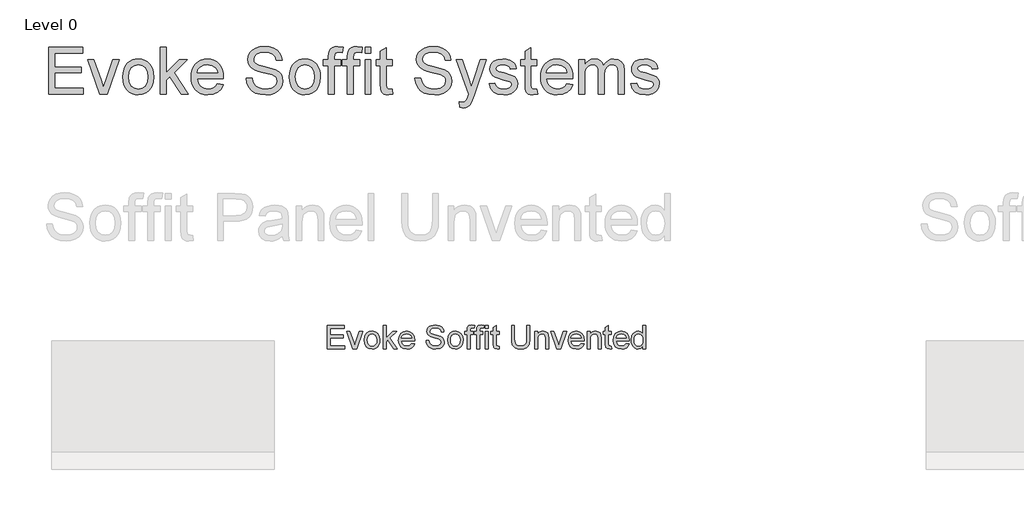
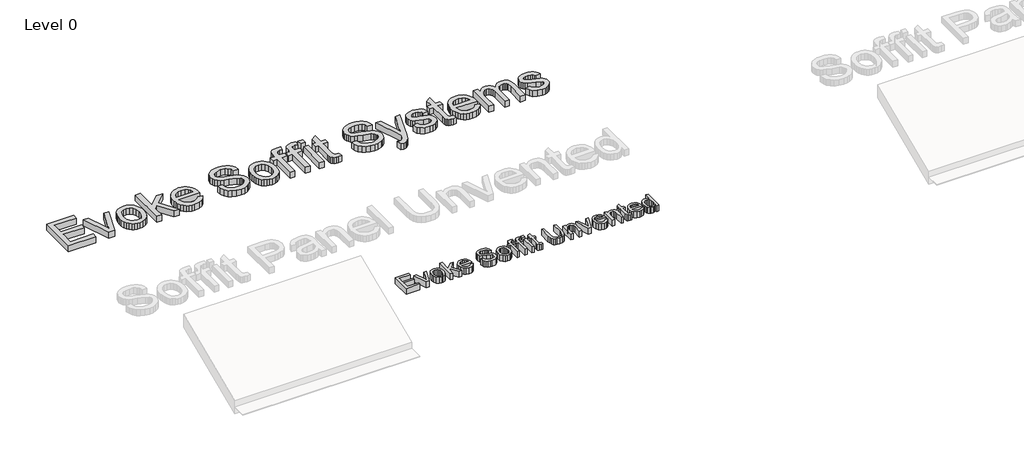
# One storey, part 2 of 13: 2 proxies.
"""IFC4 building model written with IfcOpenShell, lengths in millimetres."""

from ifc_helpers import new_model, si_unit, origin, origin_with_axes, place, context, project, spatial, polyline, outline, extrude, element, save

model = new_model("IFC4")

# Units and contexts
model_context = context("Model", 3, world=origin())
ifc_project = project(units=[si_unit("LENGTHUNIT", "METRE", prefix="MILLI")], contexts=[model_context])

# Site, building, storey
site = spatial("IfcSite", under=ifc_project)
building = spatial("IfcBuilding", under=site)
storey = spatial("IfcBuildingStorey", under=building, Name="Level 0", Elevation=0.0)

# Proxies
placement = place(None, origin())
element("IfcBuildingElementProxy", 1, Name="150mm Arial", ObjectType="150mm Arial", at=placement, inside=storey, context=model_context, shape_type="SweptSolid", body=[
    extrude(outline(polyline([(-1431.2798957, -5059.3317689), (-1431.2798957, -4911.6394612), (-1325.1260496, -4911.6394612), (-1325.1260496, -4930.1009997), (-1412.8183573, -4930.1009997), (-1412.8183573, -4973.9471535), (-1329.7414342, -4973.9471535), (-1329.7414342, -4992.408692), (-1412.8183573, -4992.408692), (-1412.8183573, -5040.8702305), (-1322.8183573, -5040.8702305), (-1322.8183573, -5059.3317689), (-1431.2798957, -5059.3317689)])), origin_with_axes(), (0.0, 0.0, 1.0), 50.0),
    extrude(outline(polyline([(-1270.823165, -5059.3317689), (-1308.9722034, -4950.8702305), (-1289.4289342, -4950.8702305), (-1266.3159534, -5015.846192), (-1259.3568188, -5037.6971535), (-1252.541915, -5017.0721535), (-1229.2847034, -4950.8702305), (-1209.7414342, -4950.8702305), (-1247.4217226, -5059.3317689), (-1270.823165, -5059.3317689)])), origin_with_axes(), (0.0, 0.0, 1.0), 50.0),
    extrude(outline(polyline([(-1198.2029726, -5005.1009997), (-1194.2095832, -4978.9501584), (-1182.229415, -4960.5697497), (-1167.4277323, -4951.564341), (-1149.7053765, -4948.5625382), (-1130.3108452, -4952.2178867), (-1114.8195592, -4963.1839324), (-1104.6648116, -4980.5952906), (-1101.2798957, -5003.5865766), (-1102.77629, -5022.237418), (-1107.2654726, -5036.4351343), (-1114.6167347, -5047.0676463), (-1124.6993669, -5055.0228747), (-1136.6750279, -5059.9853146), (-1149.7053765, -5061.6394612), (-1169.3342827, -5057.9976343), (-1184.80754, -5047.0721535), (-1194.8541145, -5029.2957112), (-1198.2029726, -5005.1009997)]), holes=[polyline([(-1179.7414342, -5005.064942), (-1177.6050159, -5021.7731752), (-1171.1957611, -5033.6767209), (-1161.5503284, -5040.8026223), (-1149.7053765, -5043.1779228), (-1137.9145111, -5040.7891007), (-1128.2871073, -5033.6226343), (-1121.8778525, -5021.5613362), (-1119.7414342, -5004.4880189), (-1121.8913741, -4988.2665646), (-1128.3411938, -4976.5252785), (-1137.9821193, -4969.3993771), (-1149.7053765, -4967.0240766), (-1161.5503284, -4969.3903627), (-1171.1957611, -4976.4892209), (-1177.6050159, -4988.3657233), (-1179.7414342, -5005.064942)])]), origin_with_axes(), (0.0, 0.0, 1.0), 50.0),
    extrude(outline(polyline([(-1080.510665, -5059.3317689), (-1080.510665, -4911.6394612), (-1062.0491265, -4911.6394612), (-1062.0491265, -4991.002442), (-1020.6548957, -4950.8702305), (-995.1260496, -4950.8702305), (-1037.025088, -4991.5072497), (-992.8183573, -5059.3317689), (-1014.3808573, -5059.3317689), (-1050.2582611, -5004.3437882), (-1062.0491265, -5015.7740766), (-1062.0491265, -5059.3317689), (-1080.510665, -5059.3317689)])), origin_with_axes(), (0.0, 0.0, 1.0), 50.0),
    extrude(outline(polyline([(-900.7270111, -5027.0240766), (-882.6260496, -5029.3317689), (-889.1479847, -5042.970591), (-899.5551361, -5053.1659035), (-913.6131289, -5059.5210718), (-931.087588, -5061.6394612), (-952.7492467, -5057.9841127), (-969.416915, -5047.018067), (-980.0449198, -5029.4534636), (-983.587588, -5006.002442), (-980.0088621, -4981.7626584), (-969.2726842, -4963.6346535), (-952.8303765, -4952.330567), (-932.1332611, -4948.5625382), (-912.080677, -4952.3215526), (-896.05754, -4963.5985959), (-885.5512299, -4981.690543), (-882.0491265, -5005.8942689), (-882.1572996, -5010.8702305), (-965.1260496, -5010.8702305), (-961.9304366, -5024.689341), (-954.5070592, -5034.8485959), (-943.7934174, -5041.095591), (-930.7270111, -5043.1779228), (-912.6260496, -5039.3197497), (-900.7270111, -5027.0240766)]), holes=[polyline([(-965.1260496, -4992.408692), (-900.510665, -4992.408692), (-903.0076601, -4982.6550862), (-907.9024919, -4975.6779228), (-918.665713, -4969.1875382), (-932.2053765, -4967.0240766), (-944.6497876, -4968.7503386), (-954.9397515, -4973.9291247), (-962.0926962, -4982.0015406), (-965.1260496, -4992.408692)])]), origin_with_axes(), (0.0, 0.0, 1.0), 50.0),
    extrude(outline(polyline([(-810.510665, -5008.5625382), (-792.0491265, -5008.5625382), (-786.0996073, -5027.0421055), (-771.5683573, -5038.7247978), (-749.4289342, -5043.1779228), (-730.1380688, -5039.8065285), (-717.6801361, -5030.5397016), (-713.587588, -5018.1538843), (-716.6524919, -5006.6334516), (-729.2005688, -4998.2500382), (-756.0815784, -4991.2007593), (-785.0178765, -4982.096192), (-800.7210015, -4968.3582112), (-805.8952803, -4950.0048459), (-804.2952202, -4939.1920454), (-799.49504, -4929.1094132), (-791.6209414, -4920.5637401), (-780.7991265, -4914.361817), (-753.431338, -4909.3317689), (-724.2246073, -4914.596192), (-713.0286938, -4921.095591), (-704.7534534, -4930.064942), (-699.5160736, -4940.9453507), (-697.4337419, -4953.1779228), (-715.8952803, -4953.1779228), (-719.2847034, -4942.1622978), (-726.3520111, -4934.2115766), (-737.3946794, -4929.3978747), (-752.7101842, -4927.7933074), (-768.3862659, -4929.3798459), (-779.1404726, -4934.1394612), (-785.3604246, -4941.143668), (-787.4337419, -4949.4639805), (-785.9643909, -4956.5583314), (-781.556338, -4962.2644612), (-751.4121073, -4972.5769612), (-718.743838, -4981.8437882), (-708.2194991, -4988.5415045), (-700.8772515, -4996.8077305), (-695.1260496, -5017.6851343), (-696.7801962, -5029.0658434), (-701.7426361, -5039.7704709), (-709.8105448, -5048.9832112), (-720.7810976, -5055.8882593), (-748.7077803, -5061.6394612), (-766.7952202, -5060.0889805), (-781.68254, -5055.4375382), (-793.5410135, -5047.6671055), (-802.541915, -5036.7596535), (-808.3201601, -5023.4723939), (-810.510665, -5008.5625382)])), origin_with_axes(), (0.0, 0.0, 1.0), 50.0),
    extrude(outline(polyline([(-674.3568188, -5005.1009997), (-670.3634294, -4978.9501584), (-658.3832611, -4960.5697497), (-643.5815784, -4951.564341), (-625.8592226, -4948.5625382), (-606.4646914, -4952.2178867), (-590.9734053, -4963.1839324), (-580.8186577, -4980.5952906), (-577.4337419, -5003.5865766), (-578.9301361, -5022.237418), (-583.4193188, -5036.4351343), (-590.7705808, -5047.0676463), (-600.853213, -5055.0228747), (-612.8288741, -5059.9853146), (-625.8592226, -5061.6394612), (-645.4881289, -5057.9976343), (-660.9613861, -5047.0721535), (-671.0079606, -5029.2957112), (-674.3568188, -5005.1009997)]), holes=[polyline([(-655.8952803, -5005.064942), (-653.7588621, -5021.7731752), (-647.3496073, -5033.6767209), (-637.7041746, -5040.8026223), (-625.8592226, -5043.1779228), (-614.0683573, -5040.7891007), (-604.4409534, -5033.6226343), (-598.0316986, -5021.5613362), (-595.8952803, -5004.4880189), (-598.0452202, -4988.2665646), (-604.49504, -4976.5252785), (-614.1359654, -4969.3993771), (-625.8592226, -4967.0240766), (-637.7041746, -4969.3903627), (-647.3496073, -4976.4892209), (-653.7588621, -4988.3657233), (-655.8952803, -5005.064942)])]), origin_with_axes(), (0.0, 0.0, 1.0), 50.0),
    extrude(outline(polyline([(-552.0491265, -5059.3317689), (-552.0491265, -4969.3317689), (-568.2029726, -4969.3317689), (-568.2029726, -4950.8702305), (-552.0491265, -4950.8702305), (-552.0491265, -4939.9447497), (-550.1020111, -4924.5481151), (-540.6548957, -4913.5505189), (-522.0491265, -4909.3317689), (-505.2101842, -4911.3509997), (-507.9145111, -4928.658692), (-518.5515303, -4927.7933074), (-530.1801361, -4930.8582112), (-533.587588, -4942.2884997), (-533.587588, -4950.8702305), (-512.8183573, -4950.8702305), (-512.8183573, -4969.3317689), (-533.587588, -4969.3317689), (-533.587588, -5059.3317689), (-552.0491265, -5059.3317689)])), origin_with_axes(), (0.0, 0.0, 1.0), 50.0),
    extrude(outline(polyline([(-492.0491265, -5059.3317689), (-492.0491265, -4969.3317689), (-508.2029726, -4969.3317689), (-508.2029726, -4950.8702305), (-492.0491265, -4950.8702305), (-492.0491265, -4939.9447497), (-490.1020111, -4924.5481151), (-480.6548957, -4913.5505189), (-462.0491265, -4909.3317689), (-445.2101842, -4911.3509997), (-447.9145111, -4928.658692), (-458.5515303, -4927.7933074), (-470.1801361, -4930.8582112), (-473.587588, -4942.2884997), (-473.587588, -4950.8702305), (-452.8183573, -4950.8702305), (-452.8183573, -4969.3317689), (-473.587588, -4969.3317689), (-473.587588, -5059.3317689), (-492.0491265, -5059.3317689)])), origin_with_axes(), (0.0, 0.0, 1.0), 50.0),
    extrude(outline(polyline([(-436.6645111, -4930.1009997), (-436.6645111, -4911.6394612), (-418.2029726, -4911.6394612), (-418.2029726, -4930.1009997), (-436.6645111, -4930.1009997)])), origin_with_axes(), (0.0, 0.0, 1.0), 50.0),
    extrude(outline(polyline([(-436.6645111, -5059.3317689), (-436.6645111, -4950.8702305), (-418.2029726, -4950.8702305), (-418.2029726, -5059.3317689), (-436.6645111, -5059.3317689)])), origin_with_axes(), (0.0, 0.0, 1.0), 50.0),
    extrude(outline(polyline([(-351.2798957, -5043.9351343), (-348.9722034, -5059.8726343), (-362.7822996, -5061.6394612), (-378.2510496, -5058.5745574), (-385.9673957, -5050.533692), (-388.2029726, -5029.5841728), (-388.2029726, -4969.3317689), (-402.0491265, -4969.3317689), (-402.0491265, -4950.8702305), (-388.2029726, -4950.8702305), (-388.2029726, -4924.5120574), (-369.7414342, -4913.658692), (-369.7414342, -4950.8702305), (-351.2798957, -4950.8702305), (-351.2798957, -4969.3317689), (-369.7414342, -4969.3317689), (-369.7414342, -5029.0433074), (-368.7678765, -5038.5625382), (-365.6128284, -5041.9339324), (-359.3207611, -5043.1779228), (-351.2798957, -5043.9351343)])), origin_with_axes(), (0.0, 0.0, 1.0), 50.0),
    extrude(outline(polyline([(-175.8952803, -4911.6394612), (-157.4337419, -4911.6394612), (-157.4337419, -4996.8437882), (-162.4457611, -5032.1622978), (-169.4679967, -5044.0162641), (-180.510665, -5053.4363362), (-195.6008092, -5059.58868), (-214.7654726, -5061.6394612), (-233.5109654, -5059.8546055), (-248.4974438, -5054.5000382), (-259.729415, -5045.760555), (-267.2113861, -5033.8209516), (-271.4166145, -5017.806829), (-272.8183573, -4996.8437882), (-272.8183573, -4911.6394612), (-254.3568188, -4911.6394612), (-254.3568188, -4996.1947497), (-250.7149919, -5024.3377785), (-245.7660736, -5032.338079), (-238.2029726, -5038.2740766), (-216.4962419, -5043.1779228), (-197.7191986, -5040.753043), (-185.2342226, -5033.4784035), (-178.2300159, -5019.3077305), (-175.8952803, -4996.1947497), (-175.8952803, -4911.6394612)])), origin_with_axes(), (0.0, 0.0, 1.0), 50.0),
    extrude(outline(polyline([(-127.4337419, -5059.3317689), (-127.4337419, -4950.8702305), (-108.9722034, -4950.8702305), (-108.9722034, -4966.0144612), (-94.8556169, -4952.9255189), (-75.5827803, -4948.5625382), (-58.1488861, -4952.0781632), (-46.2498476, -4961.3089324), (-40.7149919, -4974.8846535), (-39.7414342, -4992.7332112), (-39.7414342, -5059.3317689), (-58.2029726, -5059.3317689), (-58.2029726, -4995.221192), (-60.3303765, -4978.8870574), (-67.8484053, -4970.2512401), (-80.5226842, -4967.0240766), (-91.3354847, -4968.8359757), (-100.5527323, -4974.2716728), (-106.8673356, -4984.7734757), (-108.9722034, -5001.783692), (-108.9722034, -5059.3317689), (-127.4337419, -5059.3317689)])), origin_with_axes(), (0.0, 0.0, 1.0), 50.0),
    extrude(outline(polyline([(12.2537581, -5059.3317689), (-25.8952803, -4950.8702305), (-6.3520111, -4950.8702305), (16.7609697, -5015.846192), (23.7201043, -5037.6971535), (30.5350081, -5017.0721535), (53.7922197, -4950.8702305), (73.3354889, -4950.8702305), (35.6552004, -5059.3317689), (12.2537581, -5059.3317689)])), origin_with_axes(), (0.0, 0.0, 1.0), 50.0),
    extrude(outline(polyline([(165.426835, -5027.0240766), (183.5277966, -5029.3317689), (177.0058615, -5042.970591), (166.59871, -5053.1659035), (152.5407173, -5059.5210718), (135.0662581, -5061.6394612), (113.4045995, -5057.9841127), (96.7369312, -5047.018067), (86.1089264, -5029.4534636), (82.5662581, -5006.002442), (86.1449841, -4981.7626584), (96.881162, -4963.6346535), (113.3234697, -4952.330567), (134.020585, -4948.5625382), (154.0731692, -4952.3215526), (170.0963062, -4963.5985959), (180.6026163, -4981.690543), (184.1047197, -5005.8942689), (183.9965466, -5010.8702305), (101.0277966, -5010.8702305), (104.2234096, -5024.689341), (111.646787, -5034.8485959), (122.3604288, -5041.095591), (135.426835, -5043.1779228), (153.5277966, -5039.3197497), (165.426835, -5027.0240766)]), holes=[polyline([(101.0277966, -4992.408692), (165.6431812, -4992.408692), (163.146186, -4982.6550862), (158.2513543, -4975.6779228), (147.4881331, -4969.1875382), (133.9484697, -4967.0240766), (121.5040586, -4968.7503386), (111.2140947, -4973.9291247), (104.0611499, -4982.0015406), (101.0277966, -4992.408692)])]), origin_with_axes(), (0.0, 0.0, 1.0), 50.0),
    extrude(outline(polyline([(202.5662581, -5059.3317689), (202.5662581, -4950.8702305), (221.0277966, -4950.8702305), (221.0277966, -4966.0144612), (235.1443831, -4952.9255189), (254.4172197, -4948.5625382), (271.8511139, -4952.0781632), (283.7501524, -4961.3089324), (289.2850081, -4974.8846535), (290.2585658, -4992.7332112), (290.2585658, -5059.3317689), (271.7970274, -5059.3317689), (271.7970274, -4995.221192), (269.6696235, -4978.8870574), (262.1515947, -4970.2512401), (249.4773158, -4967.0240766), (238.6645153, -4968.8359757), (229.4472677, -4974.2716728), (223.1326644, -4984.7734757), (221.0277966, -5001.783692), (221.0277966, -5059.3317689), (202.5662581, -5059.3317689)])), origin_with_axes(), (0.0, 0.0, 1.0), 50.0),
    extrude(outline(polyline([(354.8739504, -5043.9351343), (357.1816427, -5059.8726343), (343.3715466, -5061.6394612), (327.9027966, -5058.5745574), (320.1864504, -5050.533692), (317.9508735, -5029.5841728), (317.9508735, -4969.3317689), (304.1047197, -4969.3317689), (304.1047197, -4950.8702305), (317.9508735, -4950.8702305), (317.9508735, -4924.5120574), (336.412412, -4913.658692), (336.412412, -4950.8702305), (354.8739504, -4950.8702305), (354.8739504, -4969.3317689), (336.412412, -4969.3317689), (336.412412, -5029.0433074), (337.3859697, -5038.5625382), (340.5410177, -5041.9339324), (346.833085, -5043.1779228), (354.8739504, -5043.9351343)])), origin_with_axes(), (0.0, 0.0, 1.0), 50.0),
    extrude(outline(polyline([(449.2729889, -5027.0240766), (467.3739504, -5029.3317689), (460.8520153, -5042.970591), (450.4448639, -5053.1659035), (436.3868711, -5059.5210718), (418.912412, -5061.6394612), (397.2507533, -5057.9841127), (380.583085, -5047.018067), (369.9550802, -5029.4534636), (366.412412, -5006.002442), (369.9911379, -4981.7626584), (380.7273158, -4963.6346535), (397.1696235, -4952.330567), (417.8667389, -4948.5625382), (437.919323, -4952.3215526), (453.94246, -4963.5985959), (464.4487701, -4981.690543), (467.9508735, -5005.8942689), (467.8427004, -5010.8702305), (384.8739504, -5010.8702305), (388.0695634, -5024.689341), (395.4929408, -5034.8485959), (406.2065826, -5041.095591), (419.2729889, -5043.1779228), (437.3739504, -5039.3197497), (449.2729889, -5027.0240766)]), holes=[polyline([(384.8739504, -4992.408692), (449.489335, -4992.408692), (446.9923399, -4982.6550862), (442.0975081, -4975.6779228), (431.334287, -4969.1875382), (417.7946235, -4967.0240766), (405.3502124, -4968.7503386), (395.0602485, -4973.9291247), (387.9073038, -4982.0015406), (384.8739504, -4992.408692)])]), origin_with_axes(), (0.0, 0.0, 1.0), 50.0),
    extrude(outline(polyline([(553.3354889, -5059.3317689), (553.3354889, -5041.9159035), (541.1209456, -5056.7085718), (524.2369312, -5061.6394612), (512.301835, -5059.8546055), (501.3763543, -5054.5000382), (492.1275562, -5045.9498579), (485.2225081, -5034.5781632), (480.9226283, -5020.8446896), (479.489335, -5005.2091728), (484.771787, -4975.8221535), (491.3703447, -4964.1665045), (500.6011139, -4955.5937882), (511.7654769, -4950.3203507), (524.1648158, -4948.5625382), (541.1840466, -4953.5925862), (553.3354889, -4966.6634997), (553.3354889, -4911.6394612), (571.7970274, -4911.6394612), (571.7970274, -5059.3317689), (553.3354889, -5059.3317689)]), holes=[polyline([(497.9508735, -5005.1370574), (500.0332052, -5021.8362761), (506.2802004, -5033.7127785), (515.3577245, -5040.8116367), (525.9316427, -5043.1779228), (536.5010538, -5040.9198098), (545.34871, -5034.1454709), (551.3387942, -5022.728704), (553.3354889, -5006.5433074), (551.3027365, -4988.8479949), (545.2044793, -4976.5793651), (536.1314624, -4969.4128987), (525.1744312, -4967.0240766), (514.4923399, -4969.3182473), (505.739335, -4976.2007593), (499.8979889, -4988.0231752), (497.9508735, -5005.1370574)])]), origin_with_axes(), (0.0, 0.0, 1.0), 50.0),
])
element("IfcBuildingElementProxy", 2, Name="300mm Arial", ObjectType="300mm Arial", at=placement, inside=storey, context=model_context, shape_type="SweptSolid", body=[
    extrude(outline(polyline([(-3182.8930025, -3457.0008699), (-3182.8930025, -3161.6162545), (-2970.5853102, -3161.6162545), (-2970.5853102, -3198.5393314), (-3145.9699256, -3198.5393314), (-3145.9699256, -3286.2316391), (-2979.8160795, -3286.2316391), (-2979.8160795, -3323.154716), (-3145.9699256, -3323.154716), (-3145.9699256, -3420.0777929), (-2965.9699256, -3420.0777929), (-2965.9699256, -3457.0008699), (-3182.8930025, -3457.0008699)])), origin_with_axes(), (0.0, 0.0, 1.0), 50.0),
    extrude(outline(polyline([(-2861.979541, -3457.0008699), (-2938.2776179, -3240.0777929), (-2899.1910795, -3240.0777929), (-2852.9651179, -3370.029716), (-2839.0468487, -3413.7316391), (-2825.417041, -3372.4816391), (-2778.9026179, -3240.0777929), (-2739.8160795, -3240.0777929), (-2815.1766564, -3457.0008699), (-2861.979541, -3457.0008699)])), origin_with_axes(), (0.0, 0.0, 1.0), 50.0),
    extrude(outline(polyline([(-2716.7391564, -3348.5393314), (-2714.7424617, -3320.4458819), (-2708.7523775, -3296.2376487), (-2698.768904, -3275.9146319), (-2684.792041, -3259.4768314), (-2670.7205266, -3248.9705213), (-2655.1886756, -3241.4660141), (-2638.1964881, -3236.9633098), (-2619.7439641, -3235.4624083), (-2599.3736215, -3237.2900826), (-2580.9549016, -3242.7731054), (-2564.4878042, -3251.9114768), (-2549.9723295, -3264.7051968), (-2538.1251239, -3280.721573), (-2529.6628343, -3299.5279131), (-2524.5854605, -3321.1242172), (-2522.8930025, -3345.5104853), (-2525.885791, -3382.8121679), (-2534.8641564, -3411.2076006), (-2549.5666804, -3432.4726247), (-2569.7319448, -3448.3830814), (-2593.683267, -3458.3079612), (-2619.7439641, -3461.6162545), (-2640.4117826, -3459.795341), (-2659.0017766, -3454.3326006), (-2675.513946, -3445.2280333), (-2689.948291, -3432.4816391), (-2701.6692946, -3416.3097641), (-2710.04144, -3396.9287545), (-2715.0647273, -3374.3386103), (-2716.7391564, -3348.5393314)]), holes=[polyline([(-2679.8160795, -3348.467216), (-2675.5432429, -3381.8836824), (-2662.7247333, -3405.6907737), (-2643.4338679, -3419.9425766), (-2619.7439641, -3424.6931776), (-2596.1622333, -3419.9155333), (-2576.9074256, -3405.5826006), (-2564.088916, -3381.4600045), (-2559.8160795, -3347.3133699), (-2564.1159593, -3314.8704612), (-2577.0155987, -3291.3878891), (-2596.2974497, -3277.1360862), (-2619.7439641, -3272.3854853), (-2643.4338679, -3277.1180574), (-2662.7247333, -3291.3157737), (-2675.5432429, -3315.0687785), (-2679.8160795, -3348.467216)])]), origin_with_axes(), (0.0, 0.0, 1.0), 50.0),
    extrude(outline(polyline([(-2481.354541, -3457.0008699), (-2481.354541, -3161.6162545), (-2444.4314641, -3161.6162545), (-2444.4314641, -3320.342216), (-2361.6430025, -3240.0777929), (-2310.5853102, -3240.0777929), (-2394.3833872, -3321.3518314), (-2305.9699256, -3457.0008699), (-2349.0949256, -3457.0008699), (-2420.8497333, -3347.0249083), (-2444.4314641, -3369.8854853), (-2444.4314641, -3457.0008699), (-2481.354541, -3457.0008699)])), origin_with_axes(), (0.0, 0.0, 1.0), 50.0),
    extrude(outline(polyline([(-2121.7872333, -3392.3854853), (-2085.5853102, -3397.0008699), (-2098.6291804, -3424.2785141), (-2119.4434833, -3444.6691391), (-2147.5594689, -3457.3794756), (-2182.5083872, -3461.6162545), (-2205.4185434, -3459.7885802), (-2225.8317045, -3454.3055574), (-2243.7478703, -3445.167186), (-2259.167041, -3432.373466), (-2271.5663799, -3416.2804672), (-2280.4230506, -3397.2442593), (-2285.737053, -3375.2648422), (-2287.5083872, -3350.342216), (-2285.7190242, -3324.5744877), (-2280.3509352, -3301.8626487), (-2271.4041203, -3282.2066992), (-2258.8785795, -3265.6066391), (-2243.4999737, -3252.4185381), (-2225.9939641, -3242.998466), (-2206.3605506, -3237.3464228), (-2184.5997333, -3235.4624083), (-2163.5397874, -3237.3419155), (-2144.494565, -3242.9804372), (-2127.4640662, -3252.3779732), (-2112.448291, -3265.5345237), (-2100.1909292, -3282.0985261), (-2091.4356708, -3301.7184179), (-2086.1825158, -3324.3941992), (-2084.4314641, -3350.1258699), (-2084.6478102, -3360.0777929), (-2250.5853102, -3360.0777929), (-2244.1940843, -3387.7160141), (-2229.3473295, -3408.0345237), (-2207.9200458, -3420.5285141), (-2181.7872333, -3424.6931776), (-2162.135791, -3422.764091), (-2145.5853102, -3416.9768314), (-2132.135791, -3406.9708218), (-2121.7872333, -3392.3854853)]), holes=[polyline([(-2250.5853102, -3323.154716), (-2121.354541, -3323.154716), (-2126.3485314, -3303.6475045), (-2136.1381948, -3289.6931776), (-2157.6646372, -3276.7124083), (-2184.7439641, -3272.3854853), (-2209.6327862, -3275.8380093), (-2230.2127141, -3286.1955814), (-2244.5186035, -3302.3404131), (-2250.5853102, -3323.154716)])]), origin_with_axes(), (0.0, 0.0, 1.0), 50.0),
    extrude(outline(polyline([(-1941.354541, -3355.4624083), (-1904.4314641, -3355.4624083), (-1900.1946852, -3375.952192), (-1892.5324256, -3392.4215429), (-1880.5793006, -3405.4924564), (-1863.4699256, -3415.7869276), (-1842.5564641, -3422.4666151), (-1819.1910795, -3424.6931776), (-1798.620166, -3423.0074804), (-1780.6093487, -3417.9503891), (-1766.0149977, -3409.9455814), (-1755.6934833, -3399.4167353), (-1749.5546612, -3387.3283939), (-1747.5083872, -3374.6451006), (-1749.0408391, -3362.2863266), (-1753.6381948, -3351.6042353), (-1762.9771372, -3342.4906535), (-1778.7343487, -3334.8374083), (-1832.4963679, -3320.7388506), (-1867.7878343, -3311.4089228), (-1890.3689641, -3302.529716), (-1908.7493727, -3290.107841), (-1921.7752141, -3275.0537545), (-1929.5366323, -3257.6919756), (-1932.1237718, -3238.3470237), (-1928.9236516, -3216.7214228), (-1919.323291, -3196.5561583), (-1903.5750939, -3179.4648122), (-1881.9314641, -3167.060966), (-1855.9518968, -3159.5158939), (-1827.1958872, -3157.0008699), (-1796.042041, -3159.6330814), (-1768.7824256, -3167.529716), (-1746.3905987, -3180.5285141), (-1729.8401179, -3198.467216), (-1719.3653583, -3220.2280333), (-1715.2006948, -3244.6931776), (-1752.1237718, -3244.6931776), (-1758.9026179, -3222.6619276), (-1773.0372333, -3206.7604853), (-1795.1225698, -3197.1330814), (-1825.7535795, -3193.9239468), (-1857.1057429, -3197.0970237), (-1878.6141564, -3206.6162545), (-1891.0540602, -3220.6246679), (-1895.2006948, -3237.2652929), (-1892.2619929, -3251.4539949), (-1883.4458872, -3262.8662545), (-1862.604541, -3273.0705814), (-1823.1574256, -3283.4912545), (-1757.8208872, -3302.0249083), (-1736.7722093, -3315.420341), (-1722.0877141, -3331.9527929), (-1713.4609112, -3351.4419756), (-1710.5853102, -3373.7076006), (-1713.8936035, -3396.4690189), (-1723.8184833, -3417.8782737), (-1739.9543006, -3436.3037545), (-1761.8954064, -3450.1138506), (-1788.2806227, -3458.7406535), (-1817.7487718, -3461.6162545), (-1853.9236516, -3458.5152929), (-1883.698291, -3449.2124083), (-1907.4152381, -3433.6715429), (-1925.417041, -3411.8566391), (-1936.9735314, -3385.2821199), (-1941.354541, -3355.4624083)])), origin_with_axes(), (0.0, 0.0, 1.0), 50.0),
    extrude(outline(polyline([(-1669.0468487, -3348.5393314), (-1667.050154, -3320.4458819), (-1661.0600698, -3296.2376487), (-1651.0765963, -3275.9146319), (-1637.0997333, -3259.4768314), (-1623.0282189, -3248.9705213), (-1607.4963679, -3241.4660141), (-1590.5041804, -3236.9633098), (-1572.0516564, -3235.4624083), (-1551.6813138, -3237.2900826), (-1533.2625939, -3242.7731054), (-1516.7954965, -3251.9114768), (-1502.2800218, -3264.7051968), (-1490.4328162, -3280.721573), (-1481.9705266, -3299.5279131), (-1476.8931528, -3321.1242172), (-1475.2006948, -3345.5104853), (-1478.1934833, -3382.8121679), (-1487.1718487, -3411.2076006), (-1501.8743727, -3432.4726247), (-1522.0396372, -3448.3830814), (-1545.9909593, -3458.3079612), (-1572.0516564, -3461.6162545), (-1592.7194749, -3459.795341), (-1611.3094689, -3454.3326006), (-1627.8216384, -3445.2280333), (-1642.2559833, -3432.4816391), (-1653.9769869, -3416.3097641), (-1662.3491323, -3396.9287545), (-1667.3724196, -3374.3386103), (-1669.0468487, -3348.5393314)]), holes=[polyline([(-1632.1237718, -3348.467216), (-1627.8509352, -3381.8836824), (-1615.0324256, -3405.6907737), (-1595.7415602, -3419.9425766), (-1572.0516564, -3424.6931776), (-1548.4699256, -3419.9155333), (-1529.2151179, -3405.5826006), (-1516.3966083, -3381.4600045), (-1512.1237718, -3347.3133699), (-1516.4236516, -3314.8704612), (-1529.323291, -3291.3878891), (-1548.605142, -3277.1360862), (-1572.0516564, -3272.3854853), (-1595.7415602, -3277.1180574), (-1615.0324256, -3291.3157737), (-1627.8509352, -3315.0687785), (-1632.1237718, -3348.467216)])]), origin_with_axes(), (0.0, 0.0, 1.0), 50.0),
    extrude(outline(polyline([(-1424.4314641, -3457.0008699), (-1424.4314641, -3277.0008699), (-1456.7391564, -3277.0008699), (-1456.7391564, -3240.0777929), (-1424.4314641, -3240.0777929), (-1424.4314641, -3218.2268314), (-1420.5372333, -3187.4335622), (-1413.1093487, -3175.1559179), (-1401.6430025, -3165.4383699), (-1385.5973295, -3159.1102449), (-1364.4314641, -3157.0008699), (-1330.7535795, -3161.0393314), (-1336.1622333, -3195.654716), (-1357.4362718, -3193.9239468), (-1371.4717285, -3195.4563987), (-1380.6934833, -3200.0537545), (-1385.8046612, -3208.8338026), (-1387.5083872, -3222.9143314), (-1387.5083872, -3240.0777929), (-1345.9699256, -3240.0777929), (-1345.9699256, -3277.0008699), (-1387.5083872, -3277.0008699), (-1387.5083872, -3457.0008699), (-1424.4314641, -3457.0008699)])), origin_with_axes(), (0.0, 0.0, 1.0), 50.0),
    extrude(outline(polyline([(-1304.4314641, -3457.0008699), (-1304.4314641, -3277.0008699), (-1336.7391564, -3277.0008699), (-1336.7391564, -3240.0777929), (-1304.4314641, -3240.0777929), (-1304.4314641, -3218.2268314), (-1300.5372333, -3187.4335622), (-1293.1093487, -3175.1559179), (-1281.6430025, -3165.4383699), (-1265.5973295, -3159.1102449), (-1244.4314641, -3157.0008699), (-1210.7535795, -3161.0393314), (-1216.1622333, -3195.654716), (-1237.4362718, -3193.9239468), (-1251.4717285, -3195.4563987), (-1260.6934833, -3200.0537545), (-1265.8046612, -3208.8338026), (-1267.5083872, -3222.9143314), (-1267.5083872, -3240.0777929), (-1225.9699256, -3240.0777929), (-1225.9699256, -3277.0008699), (-1267.5083872, -3277.0008699), (-1267.5083872, -3457.0008699), (-1304.4314641, -3457.0008699)])), origin_with_axes(), (0.0, 0.0, 1.0), 50.0),
    extrude(outline(polyline([(-1193.6622333, -3198.5393314), (-1193.6622333, -3161.6162545), (-1156.7391564, -3161.6162545), (-1156.7391564, -3198.5393314), (-1193.6622333, -3198.5393314)])), origin_with_axes(), (0.0, 0.0, 1.0), 50.0),
    extrude(outline(polyline([(-1193.6622333, -3457.0008699), (-1193.6622333, -3240.0777929), (-1156.7391564, -3240.0777929), (-1156.7391564, -3457.0008699), (-1193.6622333, -3457.0008699)])), origin_with_axes(), (0.0, 0.0, 1.0), 50.0),
    extrude(outline(polyline([(-1022.8930025, -3426.2076006), (-1018.2776179, -3458.0826006), (-1045.8978102, -3461.6162545), (-1063.620166, -3460.0838026), (-1076.8353102, -3455.4864468), (-1086.1742525, -3448.4011103), (-1092.2680025, -3439.404716), (-1095.6213679, -3423.9539949), (-1096.7391564, -3397.5056776), (-1096.7391564, -3277.0008699), (-1124.4314641, -3277.0008699), (-1124.4314641, -3240.0777929), (-1096.7391564, -3240.0777929), (-1096.7391564, -3187.3614468), (-1059.8160795, -3165.654716), (-1059.8160795, -3240.0777929), (-1022.8930025, -3240.0777929), (-1022.8930025, -3277.0008699), (-1059.8160795, -3277.0008699), (-1059.8160795, -3396.4239468), (-1057.8689641, -3415.4624083), (-1051.5588679, -3422.2051968), (-1038.9747333, -3424.6931776), (-1022.8930025, -3426.2076006)])), origin_with_axes(), (0.0, 0.0, 1.0), 50.0),
    extrude(outline(polyline([(-879.8160795, -3355.4624083), (-842.8930025, -3355.4624083), (-838.6562237, -3375.952192), (-830.9939641, -3392.4215429), (-819.0408391, -3405.4924564), (-801.9314641, -3415.7869276), (-781.0180025, -3422.4666151), (-757.6526179, -3424.6931776), (-737.0817045, -3423.0074804), (-719.0708872, -3417.9503891), (-704.4765362, -3409.9455814), (-694.1550218, -3399.4167353), (-688.0161997, -3387.3283939), (-685.9699256, -3374.6451006), (-687.5023775, -3362.2863266), (-692.0997333, -3351.6042353), (-701.4386756, -3342.4906535), (-717.1958872, -3334.8374083), (-770.9579064, -3320.7388506), (-806.2493727, -3311.4089228), (-828.8305025, -3302.529716), (-847.2109112, -3290.107841), (-860.2367525, -3275.0537545), (-867.9981708, -3257.6919756), (-870.5853102, -3238.3470237), (-867.38519, -3216.7214228), (-857.7848295, -3196.5561583), (-842.0366323, -3179.4648122), (-820.3930025, -3167.060966), (-794.4134352, -3159.5158939), (-765.6574256, -3157.0008699), (-734.5035795, -3159.6330814), (-707.2439641, -3167.529716), (-684.8521372, -3180.5285141), (-668.3016564, -3198.467216), (-657.8268968, -3220.2280333), (-653.6622333, -3244.6931776), (-690.5853102, -3244.6931776), (-697.3641564, -3222.6619276), (-711.4987718, -3206.7604853), (-733.5841083, -3197.1330814), (-764.2151179, -3193.9239468), (-795.5672814, -3197.0970237), (-817.0756948, -3206.6162545), (-829.5155987, -3220.6246679), (-833.6622333, -3237.2652929), (-830.7235314, -3251.4539949), (-821.9074256, -3262.8662545), (-801.0660795, -3273.0705814), (-761.6189641, -3283.4912545), (-696.2824256, -3302.0249083), (-675.2337477, -3315.420341), (-660.5492525, -3331.9527929), (-651.9224497, -3351.4419756), (-649.0468487, -3373.7076006), (-652.355142, -3396.4690189), (-662.2800218, -3417.8782737), (-678.4158391, -3436.3037545), (-700.3569448, -3450.1138506), (-726.7421612, -3458.7406535), (-756.2103102, -3461.6162545), (-792.38519, -3458.5152929), (-822.1598295, -3449.2124083), (-845.8767766, -3433.6715429), (-863.8785795, -3411.8566391), (-875.4350698, -3385.2821199), (-879.8160795, -3355.4624083)])), origin_with_axes(), (0.0, 0.0, 1.0), 50.0),
    extrude(outline(polyline([(-598.2776179, -3540.0777929), (-602.8930025, -3504.5249083), (-584.1430025, -3507.7701006), (-566.6189641, -3503.6955814), (-555.8737718, -3492.3374083), (-545.7776179, -3465.1499083), (-542.8930025, -3456.2076006), (-621.354541, -3240.0777929), (-582.4122333, -3240.0777929), (-540.8016564, -3360.5104853), (-526.3064641, -3408.6835622), (-511.8112718, -3366.1354853), (-469.0468487, -3240.0777929), (-430.3930025, -3240.0777929), (-505.8978102, -3462.1931776), (-525.5131948, -3510.3662545), (-535.5552622, -3525.7448603), (-546.9314641, -3536.3999083), (-560.1466083, -3542.6198603), (-575.7055025, -3544.6931776), (-598.2776179, -3540.0777929)])), origin_with_axes(), (0.0, 0.0, 1.0), 50.0),
    extrude(outline(polyline([(-413.6622333, -3392.3854853), (-376.7391564, -3387.7701006), (-370.9158391, -3403.5633699), (-359.6478102, -3415.1739468), (-342.8629545, -3422.3133699), (-320.4891564, -3424.6931776), (-298.385791, -3422.5116872), (-282.8449256, -3415.967216), (-273.6502141, -3406.4840429), (-270.5853102, -3395.4864468), (-273.6682429, -3386.0753891), (-282.917041, -3378.8999083), (-320.9218487, -3368.3710622), (-376.5228102, -3350.3061583), (-390.5943247, -3341.2286343), (-400.7896372, -3329.2124083), (-406.9825458, -3315.0237064), (-409.0468487, -3299.4287545), (-407.3881948, -3285.1228651), (-402.4122333, -3271.9167353), (-394.5696852, -3260.3332016), (-384.3112718, -3250.8951006), (-360.8377141, -3239.9696199), (-329.0708872, -3235.4624083), (-305.0384352, -3237.2743074), (-284.1430025, -3242.7100045), (-267.3401179, -3251.2376487), (-255.5853102, -3262.3253891), (-247.7968487, -3276.7935381), (-242.8930025, -3295.4624083), (-279.8160795, -3300.0777929), (-284.4765362, -3288.4582016), (-293.698291, -3279.7051968), (-307.5714881, -3274.2154131), (-326.1862718, -3272.3854853), (-347.3881948, -3274.1342833), (-361.5228102, -3279.3806776), (-369.4735314, -3286.9527929), (-372.1237718, -3295.6787545), (-367.7247333, -3306.4239468), (-353.9506948, -3314.5729853), (-322.1478102, -3322.4335622), (-267.9530987, -3339.8133699), (-253.6381948, -3348.1246679), (-242.7848295, -3359.5008699), (-235.9428823, -3373.9780333), (-233.6622333, -3391.592216), (-236.339517, -3409.8013506), (-244.3713679, -3426.9287545), (-257.4512958, -3441.6312785), (-275.2728102, -3452.5657737), (-296.7992525, -3459.3536343), (-320.9939641, -3461.6162545), (-358.2235314, -3457.2532737), (-385.3930025, -3444.1643314), (-403.5300218, -3422.4936583), (-413.6622333, -3392.3854853)])), origin_with_axes(), (0.0, 0.0, 1.0), 50.0),
    extrude(outline(polyline([(-113.6622333, -3426.2076006), (-109.0468487, -3458.0826006), (-136.667041, -3461.6162545), (-154.3893968, -3460.0838026), (-167.604541, -3455.4864468), (-176.9434833, -3448.4011103), (-183.0372333, -3439.404716), (-186.3905987, -3423.9539949), (-187.5083872, -3397.5056776), (-187.5083872, -3277.0008699), (-215.2006948, -3277.0008699), (-215.2006948, -3240.0777929), (-187.5083872, -3240.0777929), (-187.5083872, -3187.3614468), (-150.5853102, -3165.654716), (-150.5853102, -3240.0777929), (-113.6622333, -3240.0777929), (-113.6622333, -3277.0008699), (-150.5853102, -3277.0008699), (-150.5853102, -3396.4239468), (-148.6381948, -3415.4624083), (-142.3280987, -3422.2051968), (-129.7439641, -3424.6931776), (-113.6622333, -3426.2076006)])), origin_with_axes(), (0.0, 0.0, 1.0), 50.0),
    extrude(outline(polyline([(75.1358436, -3392.3854853), (111.3377667, -3397.0008699), (98.2938965, -3424.2785141), (77.4795936, -3444.6691391), (49.363608, -3457.3794756), (14.4146898, -3461.6162545), (-8.4954665, -3459.7885802), (-28.9086275, -3454.3055574), (-46.8247934, -3445.167186), (-62.2439641, -3432.373466), (-74.643303, -3416.2804672), (-83.4999737, -3397.2442593), (-88.8139761, -3375.2648422), (-90.5853102, -3350.342216), (-88.7959472, -3324.5744877), (-83.4278583, -3301.8626487), (-74.4810434, -3282.2066992), (-61.9555025, -3265.6066391), (-46.5768968, -3252.4185381), (-29.0708872, -3242.998466), (-9.4374737, -3237.3464228), (12.3233436, -3235.4624083), (33.3832895, -3237.3419155), (52.4285119, -3242.9804372), (69.4590107, -3252.3779732), (84.4747859, -3265.5345237), (96.7321477, -3282.0985261), (105.4874061, -3301.7184179), (110.7405612, -3324.3941992), (112.4916128, -3350.1258699), (112.2752667, -3360.0777929), (-53.6622333, -3360.0777929), (-47.2710073, -3387.7160141), (-32.4242525, -3408.0345237), (-10.9969689, -3420.5285141), (15.1358436, -3424.6931776), (34.7872859, -3422.764091), (51.3377667, -3416.9768314), (64.7872859, -3406.9708218), (75.1358436, -3392.3854853)]), holes=[polyline([(-53.6622333, -3323.154716), (75.5685359, -3323.154716), (70.5745455, -3303.6475045), (60.7848821, -3289.6931776), (39.2584398, -3276.7124083), (12.1791128, -3272.3854853), (-12.7097093, -3275.8380093), (-33.2896372, -3286.1955814), (-47.5955266, -3302.3404131), (-53.6622333, -3323.154716)])]), origin_with_axes(), (0.0, 0.0, 1.0), 50.0),
    extrude(outline(polyline([(149.4146898, -3457.0008699), (149.4146898, -3240.0777929), (186.3377667, -3240.0777929), (186.3377667, -3275.7749083), (197.4435359, -3259.3776728), (211.7223821, -3246.5321199), (228.6875263, -3238.2298362), (247.8521898, -3235.4624083), (268.3870455, -3238.2839228), (284.8473821, -3246.748466), (297.1430552, -3260.2971439), (305.1839205, -3278.3710622), (318.6424542, -3259.5985261), (333.9940167, -3246.1895718), (351.238608, -3238.1441992), (370.3762282, -3235.4624083), (398.1316369, -3239.9245478), (418.6574782, -3253.310966), (431.3407715, -3275.9822401), (435.5685359, -3308.2989468), (435.5685359, -3457.0008699), (398.645459, -3457.0008699), (398.645459, -3324.1643314), (395.2199782, -3293.3350045), (390.4062763, -3284.8344035), (382.8161321, -3278.154716), (373.0535119, -3273.8277929), (361.7223821, -3272.3854853), (341.7193773, -3276.0813987), (325.4122859, -3287.1691391), (314.567935, -3306.4059179), (310.9531513, -3334.5489468), (310.9531513, -3457.0008699), (274.0300744, -3457.0008699), (274.0300744, -3320.0537545), (271.8936561, -3299.1763506), (265.4844013, -3284.2845237), (254.207358, -3275.3602449), (237.4675744, -3272.3854853), (223.2428148, -3274.3686583), (210.1358436, -3280.3181776), (199.3185359, -3290.0898122), (191.9627667, -3303.5393314), (187.7440167, -3322.1991872), (186.3377667, -3347.6018314), (186.3377667, -3457.0008699), (149.4146898, -3457.0008699)])), origin_with_axes(), (0.0, 0.0, 1.0), 50.0),
    extrude(outline(polyline([(477.1069975, -3392.3854853), (514.0300744, -3387.7701006), (519.8533917, -3403.5633699), (531.1214205, -3415.1739468), (547.9062763, -3422.3133699), (570.2800744, -3424.6931776), (592.3834398, -3422.5116872), (607.9243052, -3415.967216), (617.1190167, -3406.4840429), (620.1839205, -3395.4864468), (617.1009878, -3386.0753891), (607.8521898, -3378.8999083), (569.8473821, -3368.3710622), (514.2464205, -3350.3061583), (500.1749061, -3341.2286343), (489.9795936, -3329.2124083), (483.786685, -3315.0237064), (481.7223821, -3299.4287545), (483.3810359, -3285.1228651), (488.3569975, -3271.9167353), (496.1995455, -3260.3332016), (506.457959, -3250.8951006), (529.9315167, -3239.9696199), (561.6983436, -3235.4624083), (585.7307955, -3237.2743074), (606.6262282, -3242.7100045), (623.4291128, -3251.2376487), (635.1839205, -3262.3253891), (642.9723821, -3276.7935381), (647.8762282, -3295.4624083), (610.9531513, -3300.0777929), (606.2926946, -3288.4582016), (597.0709398, -3279.7051968), (583.1977427, -3274.2154131), (564.582959, -3272.3854853), (543.3810359, -3274.1342833), (529.2464205, -3279.3806776), (521.2956994, -3286.9527929), (518.645459, -3295.6787545), (523.0444975, -3306.4239468), (536.8185359, -3314.5729853), (568.6214205, -3322.4335622), (622.8161321, -3339.8133699), (637.1310359, -3348.1246679), (647.9844013, -3359.5008699), (654.8263484, -3373.9780333), (657.1069975, -3391.592216), (654.4297138, -3409.8013506), (646.3978628, -3426.9287545), (633.317935, -3441.6312785), (615.4964205, -3452.5657737), (593.9699782, -3459.3536343), (569.7752667, -3461.6162545), (532.5456994, -3457.2532737), (505.3762282, -3444.1643314), (487.239209, -3422.4936583), (477.1069975, -3392.3854853)])), origin_with_axes(), (0.0, 0.0, 1.0), 50.0),
])

save(model, "model.ifc")
